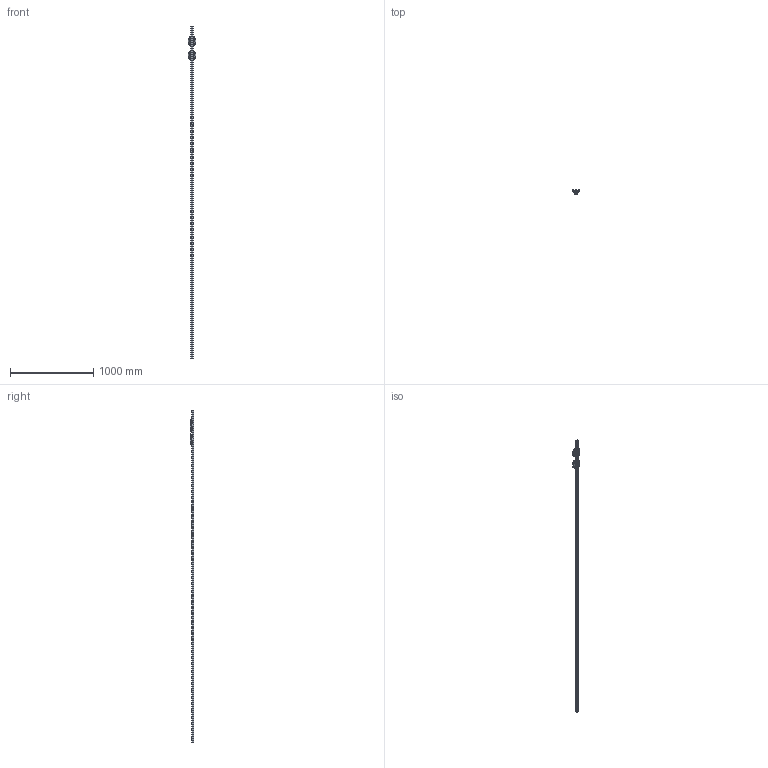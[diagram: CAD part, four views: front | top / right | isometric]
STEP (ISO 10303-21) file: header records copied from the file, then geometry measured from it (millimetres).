
FILE_DESCRIPTION((''),'2;1');
FILE_NAME('BRS30-LA_CUSTOMER_ASM_V2_ASM','2021-08-16T16:48:33',('TWVS2025'),(''),'CREO PARAMETRIC BY PTC INC, 2018420','CREO PARAMETRIC BY PTC INC, 2018420','');
FILE_SCHEMA(('CONFIG_CONTROL_DESIGN'));
Products named in the file (11): BRR30_CUSTOMER_1_1_1_1; BRS30-LA_CUSTOMER_ASM_1_ASM_1_A_ASM; BRS30-LA_CUSTOMER_ASM_ASM_1_ASM_ASM; BRS30-LA_CUSTOMER_ASM_ASM_ASM_1_ASM; BRC30-A0_1_1; BC-BRD30-LA-ASM_ASM_1_ASM_1; BRD30-A0_ASM; BRC30-A0_1_1_; BC-BRD30-LA-ASM_ASM_1_ASM_1_; BRC30-A0_ASM; BRS30-LA_CUSTOMER_ASM_V2_ASM
Assembly tree (12 placements, depth 5):
  BRS30-LA_CUSTOMER_ASM_V2_ASM
    BRS30-LA_CUSTOMER_ASM_ASM_ASM_1_ASM
      BRS30-LA_CUSTOMER_ASM_ASM_1_ASM_ASM
        BRS30-LA_CUSTOMER_ASM_1_ASM_1_A_ASM
          BRR30_CUSTOMER_1_1_1_1
    BRD30-A0_ASM
      BRC30-A0_1_1
      BC-BRD30-LA-ASM_ASM_1_ASM_1  x2
    BRC30-A0_ASM
      BRC30-A0_1_1_
      BC-BRD30-LA-ASM_ASM_1_ASM_1_  x2
Bounding box: 89.95 x 42 x 4000 mm (x, y, z)
Volume: 2695461.6 mm3; surface area: 606372.4 mm2
Topology: 5 solids, 26 shells, 2908 faces, 8538 edges, 5610 vertices
Faces by surface type: plane 1630, cylinder 794, bspline 176, torus 152, cone 112, extrusion 24, sphere 20
Entity records: 73699 total; most frequent: CARTESIAN_POINT 28149, ORIENTED_EDGE 9976, DIRECTION 8744, EDGE_CURVE 5024, VERTEX_POINT 3296, AXIS2_PLACEMENT_3D 2950, VECTOR 2844, LINE 2832
